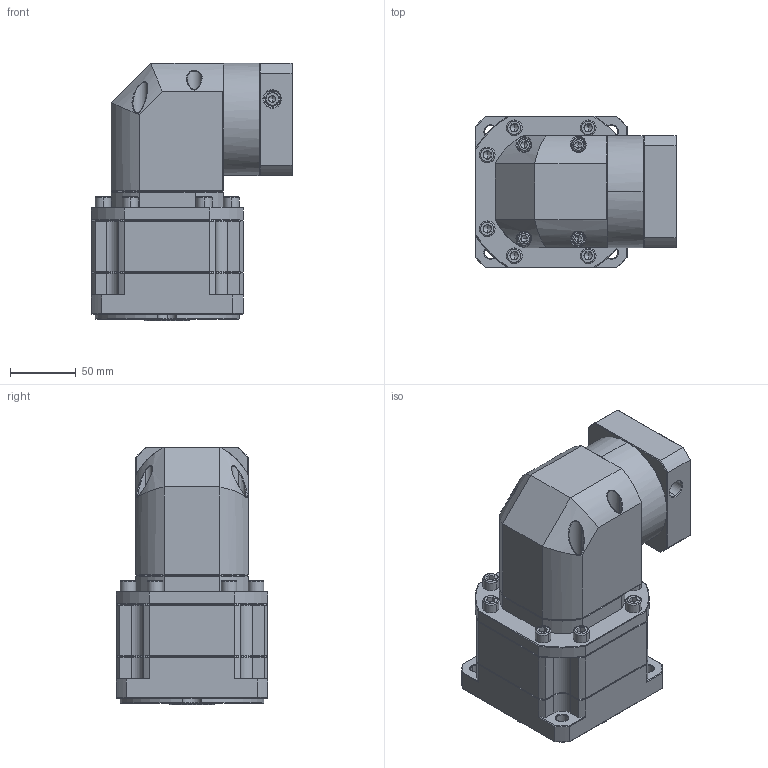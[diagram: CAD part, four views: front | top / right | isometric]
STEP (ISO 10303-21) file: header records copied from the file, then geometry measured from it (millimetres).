
FILE_DESCRIPTION (( 'STEP AP214' ), '1' );
FILE_NAME ('ZBR115A-K25-L2-P2-19-70-90-M6.step', '2023-08-26T13:36:39', ( '' ), ( '' ), 'SwSTEP 2.0', 'SolidWorks 2016', '' );
FILE_SCHEMA (( 'AUTOMOTIVE_DESIGN' ));
Length unit declared in the file: millimetre
Products named in the file (1): ZBR115A-K25-L2-P2-19-70-90-M6
Bounding box: 152.6 x 115 x 195 mm (x, y, z)
Volume: 1892873.9 mm3; surface area: 174892.8 mm2
Topology: 6 solids, 6 shells, 2541 faces, 6570 edges, 4138 vertices
Faces by surface type: plane 1274, cylinder 444, bspline 442, cone 367, torus 14
Entity records: 131806 total; most frequent: CARTESIAN_POINT 45533, ORIENTED_EDGE 13036, DIRECTION 10506, EDGE_CURVE 6518, VECTOR 4230, LINE 4230, VERTEX_POINT 4138, AXIS2_PLACEMENT_3D 3138
